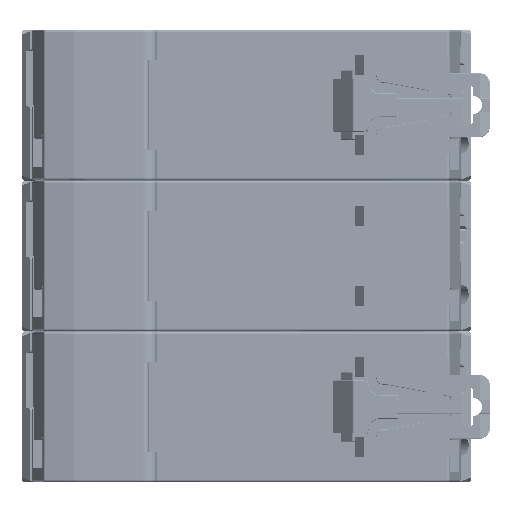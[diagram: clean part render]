
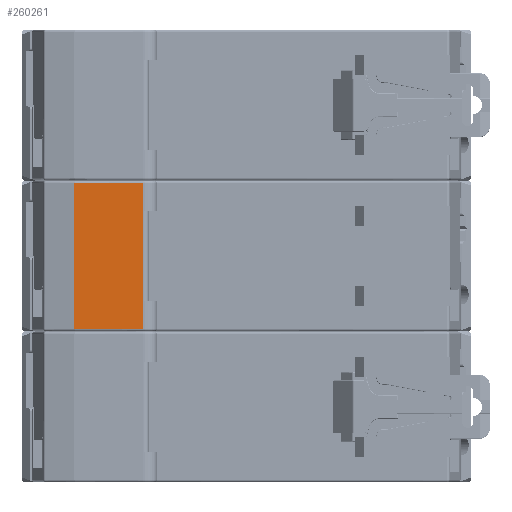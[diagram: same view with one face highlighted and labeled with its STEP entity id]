
A CAD part, left-side view. The second image highlights one B-rep face of the part: STEP entity #260261.
In plain terms, the highlighted planar face has unit normal (-1, 0, 0) as drawn and (0, -1, 0) by its records, which use the part's own axes.
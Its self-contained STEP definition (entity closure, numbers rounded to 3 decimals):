
#1657 = EDGE_LOOP ( 'NONE', ( #210493, #25921, #91797, #107958, #46790, #250275 ) ) ;
#4735 = VECTOR ( 'NONE', #136671, 1000. ) ;
#17369 = CARTESIAN_POINT ( 'NONE',  ( 18.5, -5.5, 32.5 ) ) ;
#20288 = DIRECTION ( 'NONE',  ( 0., 0., 1. ) ) ;
#22594 = EDGE_CURVE ( 'NONE', #284039, #130819, #141707, .T. ) ;
#24179 = LINE ( 'NONE', #292629, #76834 ) ;
#25921 = ORIENTED_EDGE ( 'NONE', *, *, #216891, .T. ) ;
#38630 = CARTESIAN_POINT ( 'NONE',  ( 30.759, -5.5, 53.5 ) ) ;
#46790 = ORIENTED_EDGE ( 'NONE', *, *, #56987, .T. ) ;
#56987 = EDGE_CURVE ( 'NONE', #171112, #128433, #233421, .T. ) ;
#70732 = CARTESIAN_POINT ( 'NONE',  ( 18.5, -5.5, 48.5 ) ) ;
#76409 = LINE ( 'NONE', #196255, #262813 ) ;
#76834 = VECTOR ( 'NONE', #121664, 1000. ) ;
#89627 = DIRECTION ( 'NONE',  ( 0., 0., -1. ) ) ;
#91797 = ORIENTED_EDGE ( 'NONE', *, *, #22594, .T. ) ;
#105377 = DIRECTION ( 'NONE',  ( 1., 0., 0. ) ) ;
#107958 = ORIENTED_EDGE ( 'NONE', *, *, #192573, .T. ) ;
#112351 = VECTOR ( 'NONE', #89627, 1000. ) ;
#121664 = DIRECTION ( 'NONE',  ( -1., 0., 0. ) ) ;
#124679 = CARTESIAN_POINT ( 'NONE',  ( 30.759, -5.5, 27.5 ) ) ;
#125320 = VECTOR ( 'NONE', #185244, 1000. ) ;
#127839 = CARTESIAN_POINT ( 'NONE',  ( 15.15, -5.5, 28.8 ) ) ;
#128433 = VERTEX_POINT ( 'NONE', #70732 ) ;
#130819 = VERTEX_POINT ( 'NONE', #38630 ) ;
#136671 = DIRECTION ( 'NONE',  ( 0., 0., -1. ) ) ;
#141707 = LINE ( 'NONE', #239167, #173979 ) ;
#142371 = VERTEX_POINT ( 'NONE', #154167 ) ;
#145649 = AXIS2_PLACEMENT_3D ( 'NONE', #127839, #270100, #105377 ) ;
#154167 = CARTESIAN_POINT ( 'NONE',  ( 18.5, -5.5, 32.5 ) ) ;
#171112 = VERTEX_POINT ( 'NONE', #286899 ) ;
#173979 = VECTOR ( 'NONE', #20288, 1000. ) ;
#181476 = CARTESIAN_POINT ( 'NONE',  ( 18.5, -5.5, 32.5 ) ) ;
#183672 = LINE ( 'NONE', #17369, #125320 ) ;
#185244 = DIRECTION ( 'NONE',  ( 0., 0., 1. ) ) ;
#192573 = EDGE_CURVE ( 'NONE', #130819, #171112, #24179, .T. ) ;
#196255 = CARTESIAN_POINT ( 'NONE',  ( 18.5, -5.5, 27.5 ) ) ;
#200948 = DIRECTION ( 'NONE',  ( 1., 0., 0. ) ) ;
#206337 = CARTESIAN_POINT ( 'NONE',  ( 18.5, -5.5, 53.5 ) ) ;
#210493 = ORIENTED_EDGE ( 'NONE', *, *, #224138, .T. ) ;
#211750 = LINE ( 'NONE', #181476, #4735 ) ;
#214288 = CARTESIAN_POINT ( 'NONE',  ( 18.5, -5.5, 27.5 ) ) ;
#216891 = EDGE_CURVE ( 'NONE', #256211, #284039, #76409, .T. ) ;
#224138 = EDGE_CURVE ( 'NONE', #142371, #256211, #211750, .T. ) ;
#225294 = PLANE ( 'NONE',  #145649 ) ;
#226801 = FACE_OUTER_BOUND ( 'NONE', #1657, .T. ) ;
#233421 = LINE ( 'NONE', #206337, #112351 ) ;
#239167 = CARTESIAN_POINT ( 'NONE',  ( 30.759, -5.5, 27.5 ) ) ;
#250275 = ORIENTED_EDGE ( 'NONE', *, *, #306113, .F. ) ;
#256211 = VERTEX_POINT ( 'NONE', #214288 ) ;
#260261 = ADVANCED_FACE ( 'NONE', ( #226801 ), #225294, .F. ) ;
#262813 = VECTOR ( 'NONE', #200948, 1000. ) ;
#270100 = DIRECTION ( 'NONE',  ( 0., 1., 0. ) ) ;
#284039 = VERTEX_POINT ( 'NONE', #124679 ) ;
#286899 = CARTESIAN_POINT ( 'NONE',  ( 18.5, -5.5, 53.5 ) ) ;
#292629 = CARTESIAN_POINT ( 'NONE',  ( 30.759, -5.5, 53.5 ) ) ;
#306113 = EDGE_CURVE ( 'NONE', #142371, #128433, #183672, .T. ) ;
